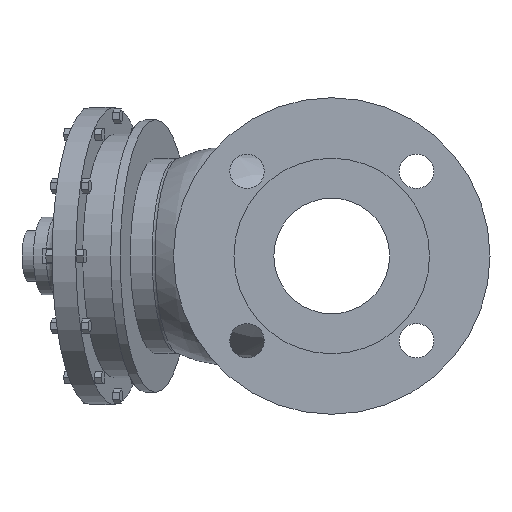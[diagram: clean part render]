
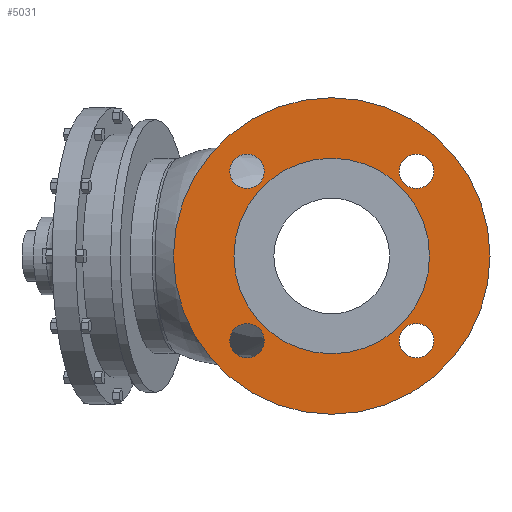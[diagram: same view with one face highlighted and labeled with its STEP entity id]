
A CAD part, left-side view. The second image highlights one B-rep face of the part: STEP entity #5031.
In plain terms, the highlighted planar face has unit normal (-1, 0, 0).
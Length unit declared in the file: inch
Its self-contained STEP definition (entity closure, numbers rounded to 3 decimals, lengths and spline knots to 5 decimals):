
#254=PLANE('',#5386);
#520=FACE_OUTER_BOUND('',#982,.T.);
#528=CIRCLE('',#5061,0.35433);
#530=CIRCLE('',#5064,0.35433);
#532=CIRCLE('',#5067,0.35433);
#534=CIRCLE('',#5070,0.35433);
#614=CIRCLE('',#5384,2.00788);
#615=CIRCLE('',#5385,2.00788);
#616=CIRCLE('',#5387,3.25);
#617=CIRCLE('',#5388,3.25);
#671=FACE_BOUND('',#983,.T.);
#672=FACE_BOUND('',#984,.T.);
#673=FACE_BOUND('',#985,.T.);
#674=FACE_BOUND('',#986,.T.);
#675=FACE_BOUND('',#987,.T.);
#982=EDGE_LOOP('',(#4440,#4441));
#983=EDGE_LOOP('',(#4442));
#984=EDGE_LOOP('',(#4443));
#985=EDGE_LOOP('',(#4444));
#986=EDGE_LOOP('',(#4445));
#987=EDGE_LOOP('',(#4446,#4447));
#2081=VERTEX_POINT('',#6672);
#2083=VERTEX_POINT('',#6678);
#2085=VERTEX_POINT('',#6684);
#2087=VERTEX_POINT('',#6690);
#2512=VERTEX_POINT('',#9113);
#2513=VERTEX_POINT('',#9114);
#2514=VERTEX_POINT('',#9119);
#2515=VERTEX_POINT('',#9120);
#2528=EDGE_CURVE('',#2081,#2081,#528,.T.);
#2531=EDGE_CURVE('',#2083,#2083,#530,.T.);
#2534=EDGE_CURVE('',#2085,#2085,#532,.T.);
#2537=EDGE_CURVE('',#2087,#2087,#534,.T.);
#3164=EDGE_CURVE('',#2512,#2513,#614,.T.);
#3165=EDGE_CURVE('',#2513,#2512,#615,.T.);
#3167=EDGE_CURVE('',#2514,#2515,#616,.T.);
#3168=EDGE_CURVE('',#2515,#2514,#617,.T.);
#4440=ORIENTED_EDGE('',*,*,#3167,.F.);
#4441=ORIENTED_EDGE('',*,*,#3168,.F.);
#4442=ORIENTED_EDGE('',*,*,#2528,.T.);
#4443=ORIENTED_EDGE('',*,*,#2531,.T.);
#4444=ORIENTED_EDGE('',*,*,#2534,.T.);
#4445=ORIENTED_EDGE('',*,*,#2537,.T.);
#4446=ORIENTED_EDGE('',*,*,#3164,.T.);
#4447=ORIENTED_EDGE('',*,*,#3165,.T.);
#5031=ADVANCED_FACE('',(#520,#671,#672,#673,#674,#675),#254,.T.);
#5061=AXIS2_PLACEMENT_3D('',#6673,#5426,#5427);
#5064=AXIS2_PLACEMENT_3D('',#6679,#5433,#5434);
#5067=AXIS2_PLACEMENT_3D('',#6685,#5440,#5441);
#5070=AXIS2_PLACEMENT_3D('',#6691,#5447,#5448);
#5384=AXIS2_PLACEMENT_3D('',#9115,#6582,#6583);
#5385=AXIS2_PLACEMENT_3D('',#9116,#6584,#6585);
#5386=AXIS2_PLACEMENT_3D('',#9118,#6587,#6588);
#5387=AXIS2_PLACEMENT_3D('',#9121,#6589,#6590);
#5388=AXIS2_PLACEMENT_3D('',#9122,#6591,#6592);
#5426=DIRECTION('center_axis',(1.,0.,0.));
#5427=DIRECTION('ref_axis',(0.,1.,0.));
#5433=DIRECTION('center_axis',(1.,0.,0.));
#5434=DIRECTION('ref_axis',(0.,0.,-1.));
#5440=DIRECTION('center_axis',(1.,0.,0.));
#5441=DIRECTION('ref_axis',(0.,-1.,0.));
#5447=DIRECTION('center_axis',(1.,0.,0.));
#5448=DIRECTION('ref_axis',(0.,0.,1.));
#6582=DIRECTION('center_axis',(1.,0.,0.));
#6583=DIRECTION('ref_axis',(0.,0.,-1.));
#6584=DIRECTION('center_axis',(1.,0.,0.));
#6585=DIRECTION('ref_axis',(0.,0.,-1.));
#6587=DIRECTION('center_axis',(-1.,0.,0.));
#6588=DIRECTION('ref_axis',(0.,0.,1.));
#6589=DIRECTION('center_axis',(1.,0.,0.));
#6590=DIRECTION('ref_axis',(0.,0.,-1.));
#6591=DIRECTION('center_axis',(1.,0.,0.));
#6592=DIRECTION('ref_axis',(0.,0.,-1.));
#6672=CARTESIAN_POINT('',(-3.91689,-2.09426,-1.73993));
#6673=CARTESIAN_POINT('Origin',(-3.91689,-1.73993,-1.73993));
#6678=CARTESIAN_POINT('',(-3.91689,-1.73993,2.09426));
#6679=CARTESIAN_POINT('Origin',(-3.91689,-1.73993,1.73993));
#6684=CARTESIAN_POINT('',(-3.91689,2.09426,1.73993));
#6685=CARTESIAN_POINT('Origin',(-3.91689,1.73993,1.73993));
#6690=CARTESIAN_POINT('',(-3.91689,1.73993,-2.09426));
#6691=CARTESIAN_POINT('Origin',(-3.91689,1.73993,-1.73993));
#9113=CARTESIAN_POINT('',(-3.91689,2.00788,0.));
#9114=CARTESIAN_POINT('',(-3.91689,-2.00788,0.));
#9115=CARTESIAN_POINT('Origin',(-3.91689,0.,0.));
#9116=CARTESIAN_POINT('Origin',(-3.91689,0.,0.));
#9118=CARTESIAN_POINT('Origin',(-3.91689,3.25,0.));
#9119=CARTESIAN_POINT('',(-3.91689,3.25,0.));
#9120=CARTESIAN_POINT('',(-3.91689,-3.25,0.));
#9121=CARTESIAN_POINT('Origin',(-3.91689,0.,0.));
#9122=CARTESIAN_POINT('Origin',(-3.91689,0.,0.));
